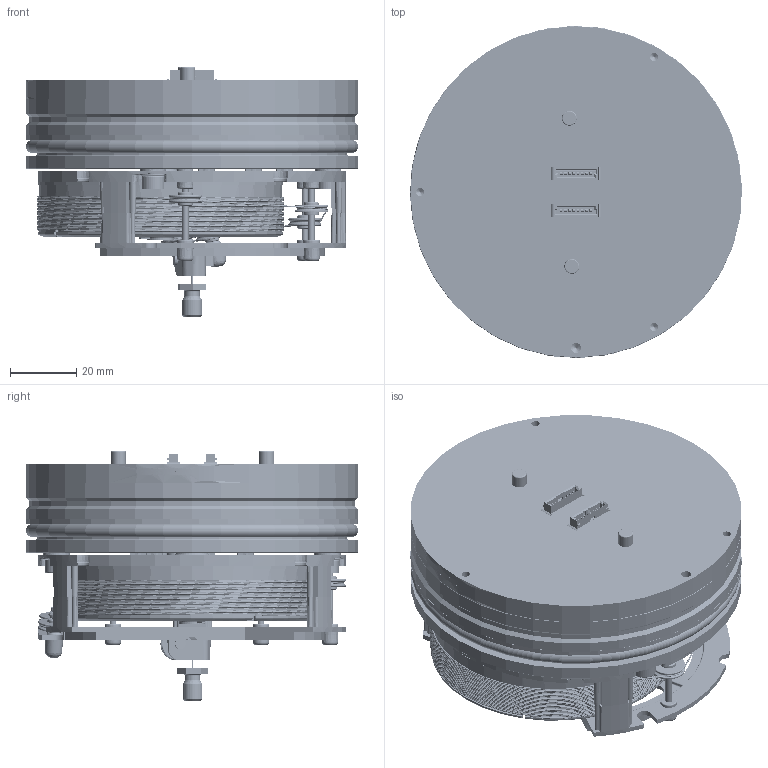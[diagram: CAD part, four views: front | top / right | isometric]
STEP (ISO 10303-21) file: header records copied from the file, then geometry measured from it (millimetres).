
FILE_DESCRIPTION (( 'STEP AP214' ), '1' );
FILE_NAME ('Baugruppe1.STEP', '2020-11-24T07:10:33', ( '' ), ( '' ), 'SwSTEP 2.0', 'SolidWorks 2019', '' );
FILE_SCHEMA (( 'AUTOMOTIVE_DESIGN' ));
Length unit declared in the file: millimetre
Products named in the file (1): Baugruppe1
Bounding box: 100 x 100 x 75.21 mm (x, y, z)
Volume: 405308.7 mm3; surface area: 146090.8 mm2
Topology: 32 solids, 32 shells, 5847 faces, 14565 edges, 8861 vertices
Faces by surface type: plane 1864, cylinder 1270, torus 944, bspline 878, cone 779, sphere 112
Entity records: 247862 total; most frequent: CARTESIAN_POINT 91047, ORIENTED_EDGE 28830, DIRECTION 27218, EDGE_CURVE 14415, AXIS2_PLACEMENT_3D 10771, VERTEX_POINT 8861, EDGE_LOOP 6220, FACE_OUTER_BOUND 5847
